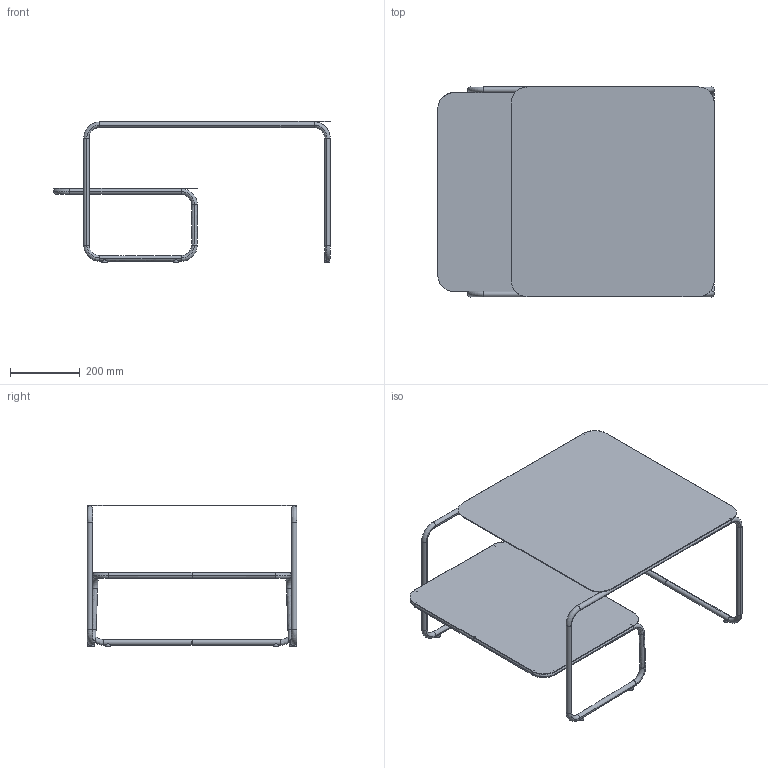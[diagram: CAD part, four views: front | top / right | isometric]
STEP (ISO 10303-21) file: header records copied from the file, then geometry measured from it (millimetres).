
FILE_DESCRIPTION(/* description */ (''),/* implementation_level */ '2;1');
FILE_NAME(/* name */ 'c511118f-a667-417e-ba96-e37b5140cdef',/* time_stamp */ '2021-11-08T10:58:25+01:00',/* author */ (''),/* organization */ (''),/* preprocessor_version */ 'ST-DEVELOPER v16.5',/* originating_system */ '',/* authorisation */ '');
FILE_SCHEMA (('CONFIG_CONTROL_DESIGN'));
Length unit declared in the file: millimetre
Products named in the file (1): Document
Bounding box: 790 x 599.98 x 405.51 mm (x, y, z)
Volume: 2461921.5 mm3; surface area: 1450648.8 mm2
Topology: 9 solids, 9 shells, 128 faces, 262 edges, 157 vertices
Faces by surface type: cylinder 62, bspline 36, plane 30
Entity records: 5175 total; most frequent: CARTESIAN_POINT 3399, ORIENTED_EDGE 516, EDGE_CURVE 258, VERTEX_POINT 152, EDGE_LOOP 134, ADVANCED_FACE 128, FACE_OUTER_BOUND 128, DIRECTION 98
